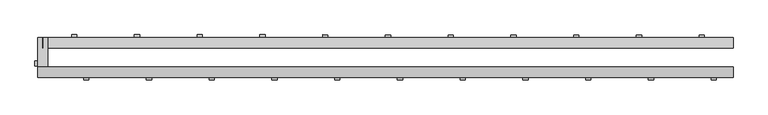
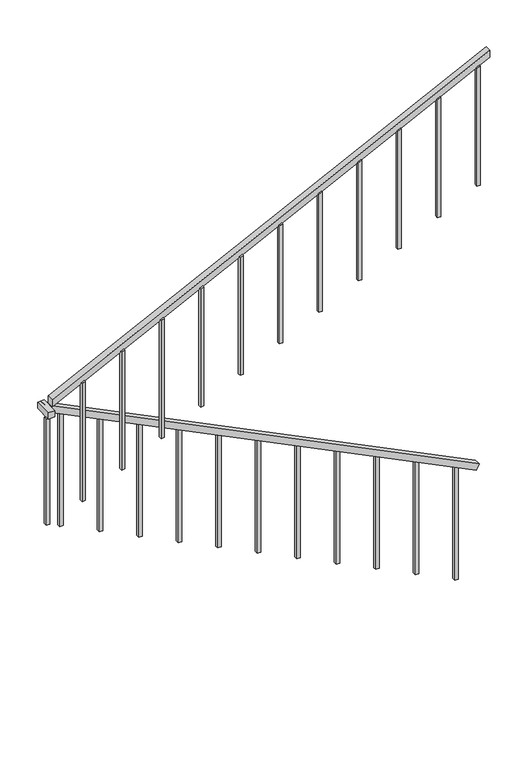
"""IFC4 building model written with IfcOpenShell, lengths in millimetres: railing geometry, ADSK_Стандартное_h 900 Поручень квадратный без направляющих."""

from ifc_helpers import new_model, si_unit, frame, origin, place, context, project, spatial, polyline, outline, extrude, source, transform, mapped, element, save


def railing_92f266af(model_context):
    return source(origin(), model_context, "Body", "SweptSolid", [
        extrude(outline(polyline([(0.0, -50.0), (0.0, 0.0), (3680.4473546, 0.0), (3680.4473546, -50.0), (0.0, -50.0)])), frame((-7263.7681434, 8387.8648158, 1003.3166415), z_axis=(0.4427803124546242, 0.0, 0.8966301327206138), x_axis=(-0.8966301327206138, 0.0, 0.4427803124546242)), (0.0, 0.0, 1.0), 50.0),
        extrude(outline(polyline([(-10567.0291278, 8437.8648158), (-10517.0291278, 8437.8648158), (-10517.0291278, 8296.2648158), (-10567.0291278, 8296.2648158), (-10567.0291278, 8437.8648158)])), frame((0.0, 0.0, 2627.7777778), z_axis=(0.0, 0.0, 1.0), x_axis=(1.0, 0.0, 0.0)), (0.0, 0.0, 1.0), 50.0),
        extrude(outline(polyline([(2813.382716, -10567.0291278), (2757.6183622, -10567.0291278), (4399.7912017, -7241.6291278), (4455.5555556, -7241.6291278), (2813.382716, -10567.0291278)])), frame((0.0, 8246.2648158, 0.0), z_axis=(0.0, 1.0, 0.0), x_axis=(0.0, 0.0, 1.0)), (0.0, 0.0, 1.0), 50.0),
        extrude(outline(polyline([(3407.4074074, -7346.5291278), (3407.4074074, -7321.5291278), (4366.0987654, -7321.5291278), (4353.7530864, -7346.5291278), (3407.4074074, -7346.5291278)])), frame((0.0, 8233.7648158, 0.0), z_axis=(0.0, 1.0, 0.0), x_axis=(0.0, 0.0, 1.0)), (0.0, 0.0, 1.0), 25.0),
        extrude(outline(polyline([(3259.2592593, -7646.5291278), (3259.2592593, -7621.5291278), (4217.9506173, -7621.5291278), (4205.6049383, -7646.5291278), (3259.2592593, -7646.5291278)])), frame((0.0, 8233.7648158, 0.0), z_axis=(0.0, 1.0, 0.0), x_axis=(0.0, 0.0, 1.0)), (0.0, 0.0, 1.0), 25.0),
        extrude(outline(polyline([(3111.1111111, -7946.5291278), (3111.1111111, -7921.5291278), (4069.8024691, -7921.5291278), (4057.4567901, -7946.5291278), (3111.1111111, -7946.5291278)])), frame((0.0, 8233.7648158, 0.0), z_axis=(0.0, 1.0, 0.0), x_axis=(0.0, 0.0, 1.0)), (0.0, 0.0, 1.0), 25.0),
        extrude(outline(polyline([(2962.962963, -8246.5291278), (2962.962963, -8221.5291278), (3921.654321, -8221.5291278), (3909.308642, -8246.5291278), (2962.962963, -8246.5291278)])), frame((0.0, 8233.7648158, 0.0), z_axis=(0.0, 1.0, 0.0), x_axis=(0.0, 0.0, 1.0)), (0.0, 0.0, 1.0), 25.0),
        extrude(outline(polyline([(2814.8148148, -8546.5291278), (2814.8148148, -8521.5291278), (3773.5061728, -8521.5291278), (3761.1604938, -8546.5291278), (2814.8148148, -8546.5291278)])), frame((0.0, 8233.7648158, 0.0), z_axis=(0.0, 1.0, 0.0), x_axis=(0.0, 0.0, 1.0)), (0.0, 0.0, 1.0), 25.0),
        extrude(outline(polyline([(2666.6666667, -8846.5291278), (2666.6666667, -8821.5291278), (3625.3580247, -8821.5291278), (3613.0123457, -8846.5291278), (2666.6666667, -8846.5291278)])), frame((0.0, 8233.7648158, 0.0), z_axis=(0.0, 1.0, 0.0), x_axis=(0.0, 0.0, 1.0)), (0.0, 0.0, 1.0), 25.0),
        extrude(outline(polyline([(2518.5185185, -9146.5291278), (2518.5185185, -9121.5291278), (3477.2098765, -9121.5291278), (3464.8641975, -9146.5291278), (2518.5185185, -9146.5291278)])), frame((0.0, 8233.7648158, 0.0), z_axis=(0.0, 1.0, 0.0), x_axis=(0.0, 0.0, 1.0)), (0.0, 0.0, 1.0), 25.0),
        extrude(outline(polyline([(2370.3703704, -9446.5291278), (2370.3703704, -9421.5291278), (3329.0617284, -9421.5291278), (3316.7160494, -9446.5291278), (2370.3703704, -9446.5291278)])), frame((0.0, 8233.7648158, 0.0), z_axis=(0.0, 1.0, 0.0), x_axis=(0.0, 0.0, 1.0)), (0.0, 0.0, 1.0), 25.0),
        extrude(outline(polyline([(2222.2222222, -9746.5291278), (2222.2222222, -9721.5291278), (3180.9135802, -9721.5291278), (3168.5679012, -9746.5291278), (2222.2222222, -9746.5291278)])), frame((0.0, 8233.7648158, 0.0), z_axis=(0.0, 1.0, 0.0), x_axis=(0.0, 0.0, 1.0)), (0.0, 0.0, 1.0), 25.0),
        extrude(outline(polyline([(2074.0740741, -10046.5291278), (2074.0740741, -10021.5291278), (3032.7654321, -10021.5291278), (3020.4197531, -10046.5291278), (2074.0740741, -10046.5291278)])), frame((0.0, 8233.7648158, 0.0), z_axis=(0.0, 1.0, 0.0), x_axis=(0.0, 0.0, 1.0)), (0.0, 0.0, 1.0), 25.0),
        extrude(outline(polyline([(1925.9259259, -10346.5291278), (1925.9259259, -10321.5291278), (2884.617284, -10321.5291278), (2872.2716049, -10346.5291278), (1925.9259259, -10346.5291278)])), frame((0.0, 8233.7648158, 0.0), z_axis=(0.0, 1.0, 0.0), x_axis=(0.0, 0.0, 1.0)), (0.0, 0.0, 1.0), 25.0),
        extrude(outline(polyline([(-10554.5291278, 8325.7648158), (-10554.5291278, 8300.7648158), (-10579.5291278, 8300.7648158), (-10579.5291278, 8325.7648158), (-10554.5291278, 8325.7648158)])), frame((0.0, 0.0, 1777.7777778), z_axis=(0.0, 0.0, 1.0), x_axis=(1.0, 0.0, 0.0)), (0.0, 0.0, 1.0), 850.0),
        extrude(outline(polyline([(2547.5308642, -10379.1291278), (2559.8765432, -10404.1291278), (1629.6296296, -10404.1291278), (1629.6296296, -10379.1291278), (2547.5308642, -10379.1291278)])), frame((0.0, 8425.3648158, 0.0), z_axis=(0.0, 1.0, 0.0), x_axis=(0.0, 0.0, 1.0)), (0.0, 0.0, 1.0), 25.0),
        extrude(outline(polyline([(2399.382716, -10079.1291278), (2411.7283951, -10104.1291278), (1481.4814815, -10104.1291278), (1481.4814815, -10079.1291278), (2399.382716, -10079.1291278)])), frame((0.0, 8425.3648158, 0.0), z_axis=(0.0, 1.0, 0.0), x_axis=(0.0, 0.0, 1.0)), (0.0, 0.0, 1.0), 25.0),
        extrude(outline(polyline([(2251.2345679, -9779.1291278), (2263.5802469, -9804.1291278), (1333.3333333, -9804.1291278), (1333.3333333, -9779.1291278), (2251.2345679, -9779.1291278)])), frame((0.0, 8425.3648158, 0.0), z_axis=(0.0, 1.0, 0.0), x_axis=(0.0, 0.0, 1.0)), (0.0, 0.0, 1.0), 25.0),
        extrude(outline(polyline([(2103.0864198, -9479.1291278), (2115.4320988, -9504.1291278), (1185.1851852, -9504.1291278), (1185.1851852, -9479.1291278), (2103.0864198, -9479.1291278)])), frame((0.0, 8425.3648158, 0.0), z_axis=(0.0, 1.0, 0.0), x_axis=(0.0, 0.0, 1.0)), (0.0, 0.0, 1.0), 25.0),
        extrude(outline(polyline([(1954.9382716, -9179.1291278), (1967.2839506, -9204.1291278), (1037.037037, -9204.1291278), (1037.037037, -9179.1291278), (1954.9382716, -9179.1291278)])), frame((0.0, 8425.3648158, 0.0), z_axis=(0.0, 1.0, 0.0), x_axis=(0.0, 0.0, 1.0)), (0.0, 0.0, 1.0), 25.0),
        extrude(outline(polyline([(1806.7901235, -8879.1291278), (1819.1358025, -8904.1291278), (888.8888889, -8904.1291278), (888.8888889, -8879.1291278), (1806.7901235, -8879.1291278)])), frame((0.0, 8425.3648158, 0.0), z_axis=(0.0, 1.0, 0.0), x_axis=(0.0, 0.0, 1.0)), (0.0, 0.0, 1.0), 25.0),
        extrude(outline(polyline([(1658.6419753, -8579.1291278), (1670.9876543, -8604.1291278), (740.7407407, -8604.1291278), (740.7407407, -8579.1291278), (1658.6419753, -8579.1291278)])), frame((0.0, 8425.3648158, 0.0), z_axis=(0.0, 1.0, 0.0), x_axis=(0.0, 0.0, 1.0)), (0.0, 0.0, 1.0), 25.0),
        extrude(outline(polyline([(1510.4938272, -8279.1291278), (1522.8395062, -8304.1291278), (592.5925926, -8304.1291278), (592.5925926, -8279.1291278), (1510.4938272, -8279.1291278)])), frame((0.0, 8425.3648158, 0.0), z_axis=(0.0, 1.0, 0.0), x_axis=(0.0, 0.0, 1.0)), (0.0, 0.0, 1.0), 25.0),
        extrude(outline(polyline([(1362.345679, -7979.1291278), (1374.691358, -8004.1291278), (444.4444444, -8004.1291278), (444.4444444, -7979.1291278), (1362.345679, -7979.1291278)])), frame((0.0, 8425.3648158, 0.0), z_axis=(0.0, 1.0, 0.0), x_axis=(0.0, 0.0, 1.0)), (0.0, 0.0, 1.0), 25.0),
        extrude(outline(polyline([(1214.1975309, -7679.1291278), (1226.5432099, -7704.1291278), (296.2962963, -7704.1291278), (296.2962963, -7679.1291278), (1214.1975309, -7679.1291278)])), frame((0.0, 8425.3648158, 0.0), z_axis=(0.0, 1.0, 0.0), x_axis=(0.0, 0.0, 1.0)), (0.0, 0.0, 1.0), 25.0),
        extrude(outline(polyline([(1066.0493827, -7379.1291278), (1078.3950617, -7404.1291278), (148.1481481, -7404.1291278), (148.1481481, -7379.1291278), (1066.0493827, -7379.1291278)])), frame((0.0, 8425.3648158, 0.0), z_axis=(0.0, 1.0, 0.0), x_axis=(0.0, 0.0, 1.0)), (0.0, 0.0, 1.0), 25.0),
    ])


if __name__ == "__main__":
    model = new_model("IFC4")
    model_context = context("Model", 3, world=origin())
    ifc_project = project(units=[si_unit("LENGTHUNIT", "METRE", prefix="MILLI")], contexts=[model_context])
    site = spatial("IfcSite", under=ifc_project)
    building = spatial("IfcBuilding", under=site)
    placement = place(None, origin())
    railing_shape = railing_92f266af(model_context)
    element("IfcRailing", 1, ObjectType="ADSK_Стандартное_h 900 Поручень квадратный без направляющих", at=placement, inside=building, context=model_context, shape_type="MappedRepresentation", body=[
        mapped(railing_shape, transform((0.0, 0.0, 0.0), x_axis=(1.0, 0.0, 0.0), y_axis=(0.0, 1.0, 0.0), z_axis=(0.0, 0.0, 1.0))),
    ])
    save(model, "model.ifc")
